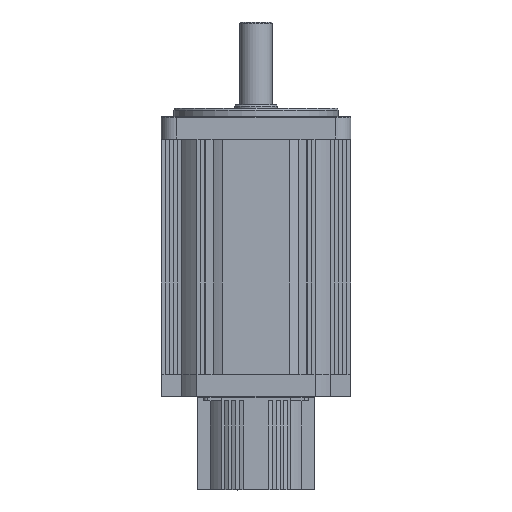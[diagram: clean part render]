
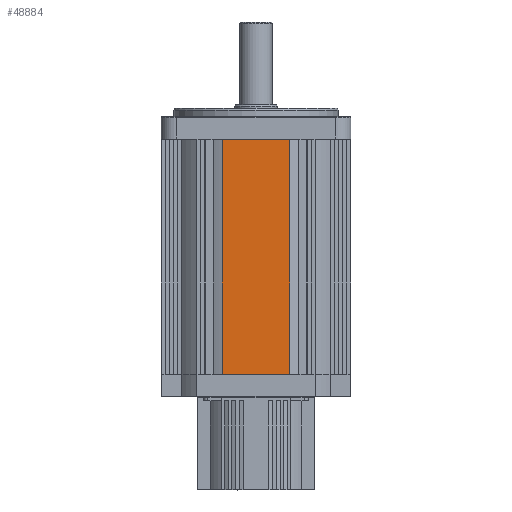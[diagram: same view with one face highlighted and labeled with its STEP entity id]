
A CAD part, front view. The second image highlights one B-rep face of the part: STEP entity #48884.
In plain terms, the highlighted planar face has unit normal (0, -1, 0).
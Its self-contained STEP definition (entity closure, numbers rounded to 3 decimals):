
#1353 = DIRECTION ( 'NONE',  ( 1., 0., 0. ) ) ;
#5050 = EDGE_LOOP ( 'NONE', ( #36088, #12318, #59977, #53026 ) ) ;
#5062 = CARTESIAN_POINT ( 'NONE',  ( -46., -55., -149.04 ) ) ;
#8089 = CARTESIAN_POINT ( 'NONE',  ( -19.449, -55., -13. ) ) ;
#9404 = PLANE ( 'NONE',  #33636 ) ;
#10517 = DIRECTION ( 'NONE',  ( 0., -1., 0. ) ) ;
#10930 = DIRECTION ( 'NONE',  ( 1., 0., 0. ) ) ;
#12318 = ORIENTED_EDGE ( 'NONE', *, *, #83533, .T. ) ;
#15708 = FACE_OUTER_BOUND ( 'NONE', #5050, .T. ) ;
#17152 = VECTOR ( 'NONE', #78453, 1000. ) ;
#18235 = CARTESIAN_POINT ( 'NONE',  ( 19.449, -55., -149.04 ) ) ;
#20552 = VERTEX_POINT ( 'NONE', #50618 ) ;
#27866 = VERTEX_POINT ( 'NONE', #56299 ) ;
#29124 = CARTESIAN_POINT ( 'NONE',  ( -46., -55., -13. ) ) ;
#33636 = AXIS2_PLACEMENT_3D ( 'NONE', #29124, #10517, #74866 ) ;
#34711 = VERTEX_POINT ( 'NONE', #39574 ) ;
#36088 = ORIENTED_EDGE ( 'NONE', *, *, #76375, .T. ) ;
#38320 = LINE ( 'NONE', #46707, #17152 ) ;
#38637 = LINE ( 'NONE', #8089, #53712 ) ;
#39574 = CARTESIAN_POINT ( 'NONE',  ( -19.449, -55., -149.04 ) ) ;
#46707 = CARTESIAN_POINT ( 'NONE',  ( 19.449, -55., -13. ) ) ;
#47781 = DIRECTION ( 'NONE',  ( 0., 0., -1. ) ) ;
#47815 = VECTOR ( 'NONE', #10930, 1000. ) ;
#48884 = ADVANCED_FACE ( 'NONE', ( #15708 ), #9404, .T. ) ;
#50618 = CARTESIAN_POINT ( 'NONE',  ( 19.449, -55., -13. ) ) ;
#53026 = ORIENTED_EDGE ( 'NONE', *, *, #69845, .F. ) ;
#53712 = VECTOR ( 'NONE', #47781, 1000. ) ;
#56299 = CARTESIAN_POINT ( 'NONE',  ( -19.449, -55., -13. ) ) ;
#59977 = ORIENTED_EDGE ( 'NONE', *, *, #61801, .T. ) ;
#61801 = EDGE_CURVE ( 'NONE', #72245, #20552, #38320, .T. ) ;
#69845 = EDGE_CURVE ( 'NONE', #27866, #20552, #74291, .T. ) ;
#71858 = CARTESIAN_POINT ( 'NONE',  ( -46., -55., -13. ) ) ;
#72245 = VERTEX_POINT ( 'NONE', #18235 ) ;
#74291 = LINE ( 'NONE', #71858, #76321 ) ;
#74866 = DIRECTION ( 'NONE',  ( 0., 0., -1. ) ) ;
#76321 = VECTOR ( 'NONE', #1353, 1000. ) ;
#76375 = EDGE_CURVE ( 'NONE', #27866, #34711, #38637, .T. ) ;
#78453 = DIRECTION ( 'NONE',  ( 0., 0., 1. ) ) ;
#83039 = LINE ( 'NONE', #5062, #47815 ) ;
#83533 = EDGE_CURVE ( 'NONE', #34711, #72245, #83039, .T. ) ;
